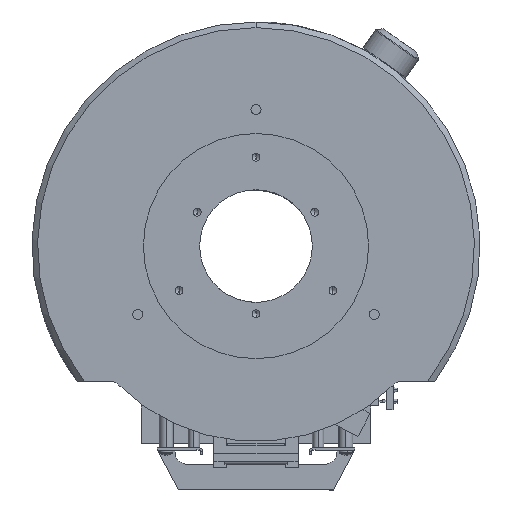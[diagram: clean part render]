
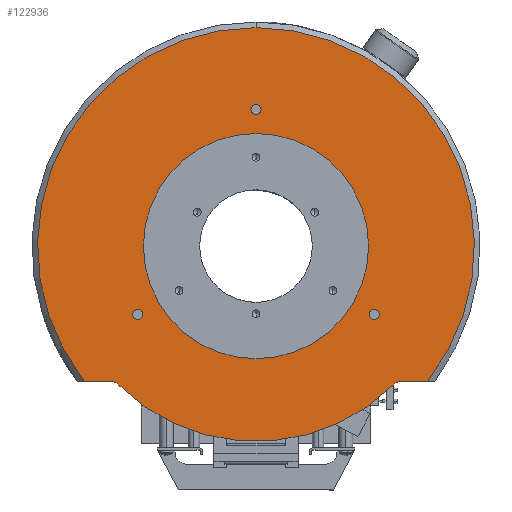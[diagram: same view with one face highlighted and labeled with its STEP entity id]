
A CAD part, front view. The second image highlights one B-rep face of the part: STEP entity #122936.
In plain terms, the highlighted planar face has unit normal (0, -1, 0).
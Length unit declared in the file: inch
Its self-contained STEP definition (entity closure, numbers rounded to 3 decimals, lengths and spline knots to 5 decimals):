
#32355 = EDGE_CURVE ( 'NONE', #33116, #32647, #67524, .T. ) ;
#32647 = VERTEX_POINT ( 'NONE', #68643 ) ;
#33090 = VERTEX_POINT ( 'NONE', #70367 ) ;
#33116 = VERTEX_POINT ( 'NONE', #70473 ) ;
#33172 = EDGE_CURVE ( 'NONE', #33286, #33090, #70720, .T. ) ;
#33286 = VERTEX_POINT ( 'NONE', #71173 ) ;
#59309 = VERTEX_POINT ( 'NONE', #83823 ) ;
#59314 = VERTEX_POINT ( 'NONE', #83757 ) ;
#59322 = EDGE_CURVE ( 'NONE', #59314, #59309, #84031, .T. ) ;
#59330 = VERTEX_POINT ( 'NONE', #84103 ) ;
#59358 = VERTEX_POINT ( 'NONE', #84285 ) ;
#59370 = EDGE_CURVE ( 'NONE', #59330, #59358, #84358, .T. ) ;
#67517 = DIRECTION ( 'NONE',  ( 0., 0., -1. ) ) ;
#67519 = DIRECTION ( 'NONE',  ( 0., -1., 0. ) ) ;
#67521 = CARTESIAN_POINT ( 'NONE',  ( -1.05006, 0.065, -0.60625 ) ) ;
#67522 = AXIS2_PLACEMENT_3D ( 'NONE', #67521, #67519, #67517 ) ;
#67524 = CIRCLE ( 'NONE', #67522, 0.0445 ) ;
#68643 = CARTESIAN_POINT ( 'NONE',  ( -1.05006, 0.065, -0.65075 ) ) ;
#70367 = CARTESIAN_POINT ( 'NONE',  ( 1.05006, 0.065, -0.65075 ) ) ;
#70473 = CARTESIAN_POINT ( 'NONE',  ( -1.05006, 0.065, -0.56175 ) ) ;
#70691 = CARTESIAN_POINT ( 'NONE',  ( 1.05006, 0.065, -0.60625 ) ) ;
#70720 = CIRCLE ( 'NONE', #70813, 0.0445 ) ;
#70798 = DIRECTION ( 'NONE',  ( 0., 0., -1. ) ) ;
#70800 = DIRECTION ( 'NONE',  ( 0., -1., 0. ) ) ;
#70813 = AXIS2_PLACEMENT_3D ( 'NONE', #70691, #70800, #70798 ) ;
#71173 = CARTESIAN_POINT ( 'NONE',  ( 1.05006, 0.065, -0.56175 ) ) ;
#78959 = EDGE_CURVE ( 'NONE', #79025, #79037, #90042, .T. ) ;
#79025 = VERTEX_POINT ( 'NONE', #90100 ) ;
#79037 = VERTEX_POINT ( 'NONE', #90082 ) ;
#83757 = CARTESIAN_POINT ( 'NONE',  ( 0., 0.065, 1.94 ) ) ;
#83823 = CARTESIAN_POINT ( 'NONE',  ( -1.52434, 0.065, -1.2 ) ) ;
#84014 = DIRECTION ( 'NONE',  ( 0., 0., -1. ) ) ;
#84015 = DIRECTION ( 'NONE',  ( 0., -1., 0. ) ) ;
#84016 = CARTESIAN_POINT ( 'NONE',  ( 0., 0.065, 0. ) ) ;
#84031 = CIRCLE ( 'NONE', #84038, 1.94 ) ;
#84038 = AXIS2_PLACEMENT_3D ( 'NONE', #84016, #84015, #84014 ) ;
#84103 = CARTESIAN_POINT ( 'NONE',  ( 0., 0.065, -1. ) ) ;
#84279 = CARTESIAN_POINT ( 'NONE',  ( 0., 0.065, 0. ) ) ;
#84285 = CARTESIAN_POINT ( 'NONE',  ( 0., 0.065, 1. ) ) ;
#84353 = DIRECTION ( 'NONE',  ( 0., 0., -1. ) ) ;
#84355 = DIRECTION ( 'NONE',  ( 0., -1., 0. ) ) ;
#84356 = AXIS2_PLACEMENT_3D ( 'NONE', #84279, #84355, #84353 ) ;
#84358 = CIRCLE ( 'NONE', #84356, 1. ) ;
#90006 = DIRECTION ( 'NONE',  ( 0., 0., -1. ) ) ;
#90007 = DIRECTION ( 'NONE',  ( 0., -1., 0. ) ) ;
#90009 = CARTESIAN_POINT ( 'NONE',  ( 0., 0.065, 1.2125 ) ) ;
#90042 = CIRCLE ( 'NONE', #90044, 0.0445 ) ;
#90044 = AXIS2_PLACEMENT_3D ( 'NONE', #90009, #90007, #90006 ) ;
#90082 = CARTESIAN_POINT ( 'NONE',  ( 0., 0.065, 1.168 ) ) ;
#90100 = CARTESIAN_POINT ( 'NONE',  ( 0., 0.065, 1.257 ) ) ;
#93036 = DIRECTION ( 'NONE',  ( 0., 0., -1. ) ) ;
#93037 = DIRECTION ( 'NONE',  ( 0., -1., 0. ) ) ;
#93039 = CARTESIAN_POINT ( 'NONE',  ( 0., 0.065, 0. ) ) ;
#93040 = AXIS2_PLACEMENT_3D ( 'NONE', #93039, #93037, #93036 ) ;
#93057 = CIRCLE ( 'NONE', #93040, 1. ) ;
#93159 = DIRECTION ( 'NONE',  ( 0., 1., 0. ) ) ;
#93180 = DIRECTION ( 'NONE',  ( 0., 0., 1. ) ) ;
#93251 = CARTESIAN_POINT ( 'NONE',  ( 1.52434, 0.065, -1.2 ) ) ;
#93447 = DIRECTION ( 'NONE',  ( 0., 0., -1. ) ) ;
#93448 = DIRECTION ( 'NONE',  ( 0., -1., 0. ) ) ;
#93450 = CARTESIAN_POINT ( 'NONE',  ( 0., 0.065, 1.2125 ) ) ;
#93469 = AXIS2_PLACEMENT_3D ( 'NONE', #93450, #93448, #93447 ) ;
#93477 = CIRCLE ( 'NONE', #93469, 0.0445 ) ;
#93479 = CARTESIAN_POINT ( 'NONE',  ( 1.21764, 0.065, -1.23595 ) ) ;
#93540 = FACE_OUTER_BOUND ( 'NONE', #123372, .T. ) ;
#93542 = FACE_BOUND ( 'NONE', #121932, .T. ) ;
#93543 = FACE_BOUND ( 'NONE', #122928, .T. ) ;
#93545 = DIRECTION ( 'NONE',  ( 0., 0., -1. ) ) ;
#93546 = DIRECTION ( 'NONE',  ( 0., -1., 0. ) ) ;
#93547 = CARTESIAN_POINT ( 'NONE',  ( -1.05006, 0.065, -0.60625 ) ) ;
#93548 = AXIS2_PLACEMENT_3D ( 'NONE', #93639, #93159, #93180 ) ;
#93550 = FACE_BOUND ( 'NONE', #122694, .T. ) ;
#93559 = FACE_BOUND ( 'NONE', #121690, .T. ) ;
#93562 = DIRECTION ( 'NONE',  ( 0., 0., -1. ) ) ;
#93563 = DIRECTION ( 'NONE',  ( 0., -1., 0. ) ) ;
#93565 = AXIS2_PLACEMENT_3D ( 'NONE', #93593, #93563, #93562 ) ;
#93569 = AXIS2_PLACEMENT_3D ( 'NONE', #93547, #93546, #93545 ) ;
#93575 = CIRCLE ( 'NONE', #93565, 0.0445 ) ;
#93593 = CARTESIAN_POINT ( 'NONE',  ( 1.05006, 0.065, -0.60625 ) ) ;
#93597 = CIRCLE ( 'NONE', #93569, 0.0445 ) ;
#93607 = PLANE ( 'NONE',  #93548 ) ;
#93639 = CARTESIAN_POINT ( 'NONE',  ( 0., 0.065, 1.94 ) ) ;
#93743 = CARTESIAN_POINT ( 'NONE',  ( 1.30536, 0.065, -1.2 ) ) ;
#93746 = CARTESIAN_POINT ( 'NONE',  ( -1.30536, 0.065, -1.2 ) ) ;
#93774 = AXIS2_PLACEMENT_3D ( 'NONE', #93794, #93870, #93869 ) ;
#93788 = CIRCLE ( 'NONE', #93774, 1.94 ) ;
#93794 = CARTESIAN_POINT ( 'NONE',  ( 0., 0.065, 0. ) ) ;
#93869 = DIRECTION ( 'NONE',  ( 0., 0., -1. ) ) ;
#93870 = DIRECTION ( 'NONE',  ( 0., -1., 0. ) ) ;
#93886 = LINE ( 'NONE', #93985, #93984 ) ;
#93983 = DIRECTION ( 'NONE',  ( 1., 0., 0. ) ) ;
#93984 = VECTOR ( 'NONE', #93983, 39.37008 ) ;
#93985 = CARTESIAN_POINT ( 'NONE',  ( 0., 0.065, -1.2 ) ) ;
#94145 = CARTESIAN_POINT ( 'NONE',  ( -1.21764, 0.065, -1.23595 ) ) ;
#94226 = CIRCLE ( 'NONE', #94250, 0.125 ) ;
#94228 = CARTESIAN_POINT ( 'NONE',  ( -1.30536, 0.065, -1.325 ) ) ;
#94250 = AXIS2_PLACEMENT_3D ( 'NONE', #94228, #94305, #94304 ) ;
#94257 = DIRECTION ( 'NONE',  ( 1., 0., 0. ) ) ;
#94258 = VECTOR ( 'NONE', #94257, 39.37008 ) ;
#94259 = CARTESIAN_POINT ( 'NONE',  ( 0., 0.065, -1.2 ) ) ;
#94260 = LINE ( 'NONE', #94259, #94258 ) ;
#94304 = DIRECTION ( 'NONE',  ( 0., 0., 1. ) ) ;
#94305 = DIRECTION ( 'NONE',  ( 0., 1., 0. ) ) ;
#94341 = AXIS2_PLACEMENT_3D ( 'NONE', #94440, #94439, #94438 ) ;
#94344 = AXIS2_PLACEMENT_3D ( 'NONE', #94441, #94431, #94430 ) ;
#94352 = CIRCLE ( 'NONE', #94341, 1.735 ) ;
#94430 = DIRECTION ( 'NONE',  ( 0., 0., 1. ) ) ;
#94431 = DIRECTION ( 'NONE',  ( 0., 1., 0. ) ) ;
#94438 = DIRECTION ( 'NONE',  ( 0., 0., 1. ) ) ;
#94439 = DIRECTION ( 'NONE',  ( 0., -1., 0. ) ) ;
#94440 = CARTESIAN_POINT ( 'NONE',  ( 0., 0.065, 0. ) ) ;
#94441 = CARTESIAN_POINT ( 'NONE',  ( 1.30536, 0.065, -1.325 ) ) ;
#94447 = CIRCLE ( 'NONE', #94344, 0.125 ) ;
#121690 = EDGE_LOOP ( 'NONE', ( #122382, #121926 ) ) ;
#121697 = EDGE_CURVE ( 'NONE', #59358, #59330, #93057, .T. ) ;
#121926 = ORIENTED_EDGE ( 'NONE', *, *, #33172, .F. ) ;
#121932 = EDGE_LOOP ( 'NONE', ( #122685, #123608 ) ) ;
#121951 = ORIENTED_EDGE ( 'NONE', *, *, #32355, .F. ) ;
#122194 = VERTEX_POINT ( 'NONE', #93251 ) ;
#122382 = ORIENTED_EDGE ( 'NONE', *, *, #122917, .F. ) ;
#122626 = ORIENTED_EDGE ( 'NONE', *, *, #122671, .F. ) ;
#122653 = ORIENTED_EDGE ( 'NONE', *, *, #122920, .F. ) ;
#122658 = VERTEX_POINT ( 'NONE', #93479 ) ;
#122671 = EDGE_CURVE ( 'NONE', #79037, #79025, #93477, .T. ) ;
#122685 = ORIENTED_EDGE ( 'NONE', *, *, #59370, .F. ) ;
#122694 = EDGE_LOOP ( 'NONE', ( #122653, #121951 ) ) ;
#122917 = EDGE_CURVE ( 'NONE', #33090, #33286, #93575, .T. ) ;
#122920 = EDGE_CURVE ( 'NONE', #32647, #33116, #93597, .T. ) ;
#122928 = EDGE_LOOP ( 'NONE', ( #122626, #123661 ) ) ;
#122936 = ADVANCED_FACE ( 'NONE', ( #93559, #93550, #93543, #93542, #93540 ), #93607, .F. ) ;
#123155 = VERTEX_POINT ( 'NONE', #93743 ) ;
#123162 = VERTEX_POINT ( 'NONE', #93746 ) ;
#123171 = ORIENTED_EDGE ( 'NONE', *, *, #123650, .T. ) ;
#123180 = ORIENTED_EDGE ( 'NONE', *, *, #124167, .T. ) ;
#123188 = ORIENTED_EDGE ( 'NONE', *, *, #124108, .T. ) ;
#123372 = EDGE_LOOP ( 'NONE', ( #123675, #123400, #123171, #123188, #123180, #123878, #123925 ) ) ;
#123379 = EDGE_CURVE ( 'NONE', #122194, #59314, #93788, .T. ) ;
#123400 = ORIENTED_EDGE ( 'NONE', *, *, #59322, .T. ) ;
#123608 = ORIENTED_EDGE ( 'NONE', *, *, #121697, .F. ) ;
#123650 = EDGE_CURVE ( 'NONE', #59309, #123162, #93886, .T. ) ;
#123661 = ORIENTED_EDGE ( 'NONE', *, *, #78959, .F. ) ;
#123675 = ORIENTED_EDGE ( 'NONE', *, *, #123379, .T. ) ;
#123679 = VERTEX_POINT ( 'NONE', #94145 ) ;
#123878 = ORIENTED_EDGE ( 'NONE', *, *, #124172, .T. ) ;
#123913 = EDGE_CURVE ( 'NONE', #123155, #122194, #94260, .T. ) ;
#123925 = ORIENTED_EDGE ( 'NONE', *, *, #123913, .T. ) ;
#124108 = EDGE_CURVE ( 'NONE', #123162, #123679, #94226, .T. ) ;
#124167 = EDGE_CURVE ( 'NONE', #123679, #122658, #94352, .T. ) ;
#124172 = EDGE_CURVE ( 'NONE', #122658, #123155, #94447, .T. ) ;
